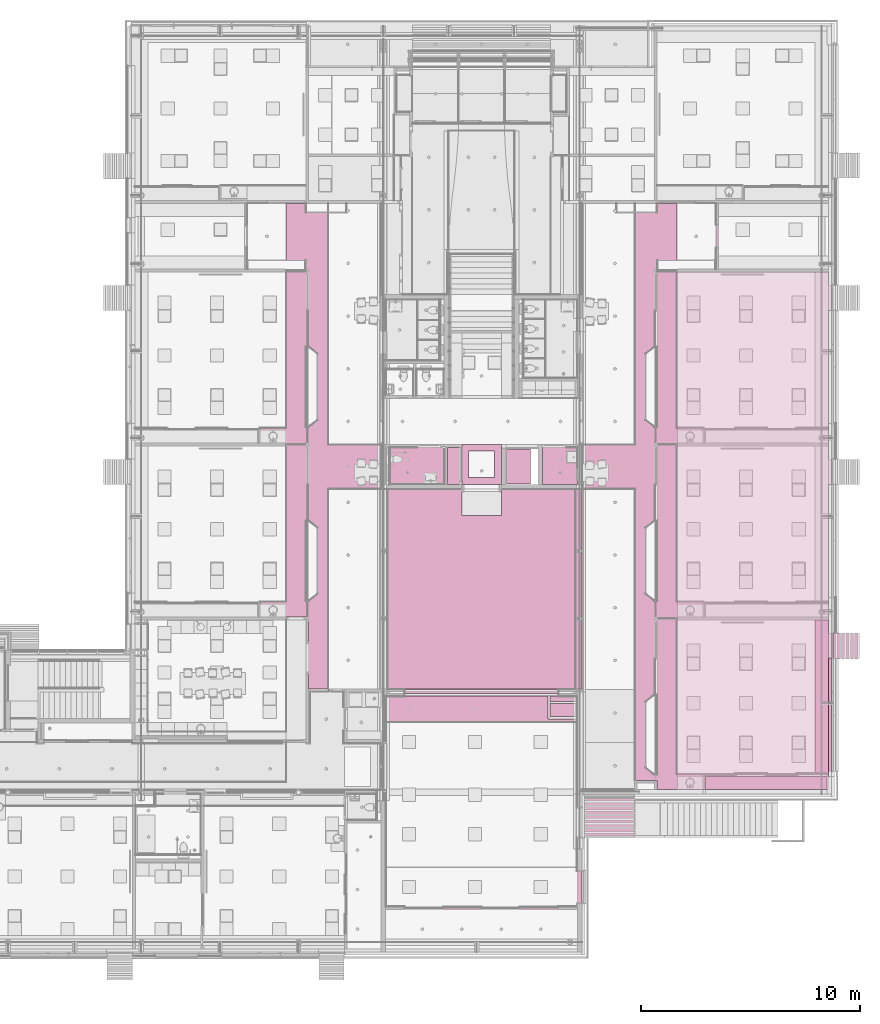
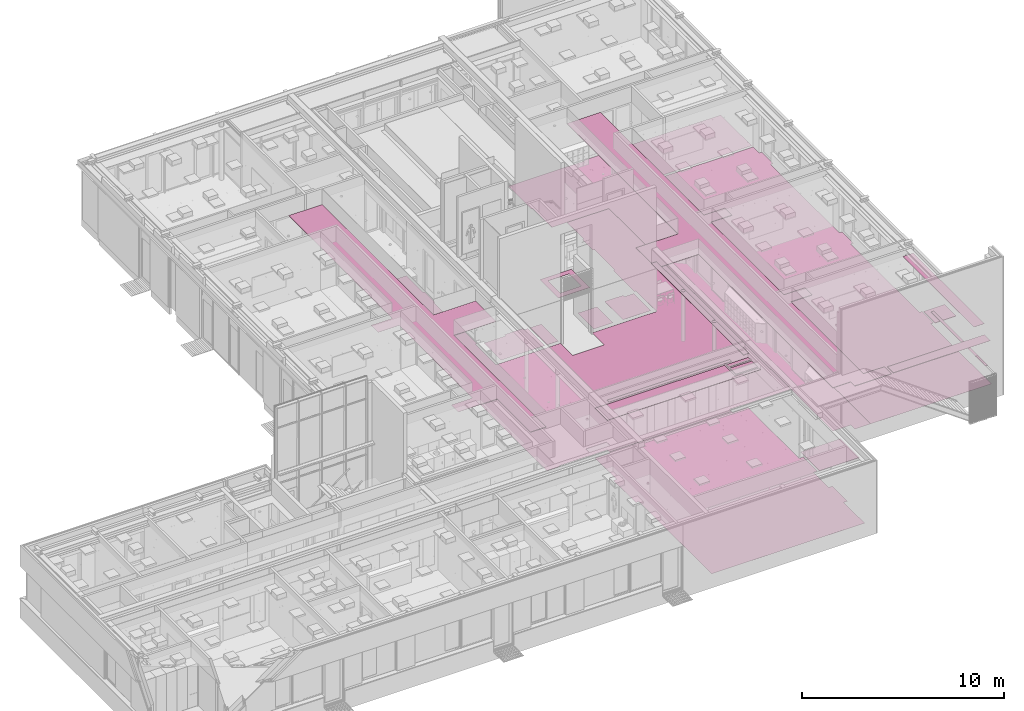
# One storey, part 324 of 347: 19 furnishings.
"""IFC2X3 building model written with IfcOpenShell, lengths in millimetres."""

import ifcopenshell
import ifcopenshell.guid

model = None  # the IFC model being written
_history = None  # IfcOwnerHistory: only IFC2X3 demands one
_inside = {}  # id of a spatial element -> (the spatial element, [elements in it])
_under = {}  # id of a project, library or spatial element -> (it, [spatial elements below it])
_declared = {}  # id of a project -> (the project, [libraries it declares])
_typed = {}  # id of a type object -> (the type object, [elements of that type])
_made_of = {}  # id of a material, layer set ... -> (it, [elements and type objects made of it])


def new_model(schema):
    """Start an empty IFC model of exactly this schema.

    Asked for "IFC4X3", IfcOpenShell would pick the latest addendum, in which some entities
    have other attributes; the version numbers below select the first issue.
    IFC2X3 requires an IfcOwnerHistory on every rooted entity: one is made here for all.
    """
    global model, _history
    if schema == "IFC4X3":
        model = ifcopenshell.file(schema_version=(4, 3, 0, 0))
    else:
        model = ifcopenshell.file(schema=schema)
    _inside.clear()
    _under.clear()
    _declared.clear()
    _typed.clear()
    _made_of.clear()
    _history = None
    if model.schema == "IFC2X3":
        org = make("IfcOrganization", Name="unknown")
        user = make(
            "IfcPersonAndOrganization",
            ThePerson=make("IfcPerson", FamilyName="unknown"),
            TheOrganization=org,
        )
        app = make(
            "IfcApplication",
            ApplicationDeveloper=org,
            Version="unknown",
            ApplicationFullName="unknown",
            ApplicationIdentifier="unknown",
        )
        _history = make(
            "IfcOwnerHistory",
            OwningUser=user,
            OwningApplication=app,
            ChangeAction="ADDED",
            CreationDate=0,
        )
    return model


def make(cls, **values):
    """One entity of the class cls with the attributes given. An attribute that is None is left unset."""
    return model.create_entity(
        cls, **{name: value for name, value in values.items() if value is not None}
    )


def entity(cls, *values):
    """Any entity or typed value of the class cls, its attributes in the order of the schema. None: left unset."""
    e = model.create_entity(cls)
    for i, value in enumerate(values):
        if value is not None:
            e[i] = value
    return e


def rooted(cls, **values):
    """An entity with a GlobalId (a new one), such as an element, a storey or a relation."""
    return make(cls, GlobalId=ifcopenshell.guid.new(), OwnerHistory=_history, **values)


def si_unit(unit_type, name, prefix=None):
    """IfcSIUnit, for example si_unit("LENGTHUNIT", "METRE", prefix="MILLI")."""
    return make("IfcSIUnit", UnitType=unit_type, Prefix=prefix, Name=name)


def converted_unit(unit_type, name, factor, base, dimensions=None, offset=None):
    """IfcConversionBasedUnit, such as the inch: factor (a typed value) times the base unit."""
    return make(
        "IfcConversionBasedUnit"
        if offset is None
        else "IfcConversionBasedUnitWithOffset",
        ConversionOffset=offset,
        Dimensions=None
        if dimensions is None
        else entity("IfcDimensionalExponents", *dimensions),
        UnitType=unit_type,
        Name=name,
        ConversionFactor=make(
            "IfcMeasureWithUnit", ValueComponent=factor, UnitComponent=base
        ),
    )


def derived_unit(unit_type, elements):
    """IfcDerivedUnit: a product of units, each with its exponent."""
    return make(
        "IfcDerivedUnit",
        Elements=[
            make("IfcDerivedUnitElement", Unit=unit, Exponent=power)
            for unit, power in elements
        ],
        UnitType=unit_type,
    )


def money_unit(currency):
    """IfcMonetaryUnit."""
    return make("IfcMonetaryUnit", Currency=currency)


def assignment(units):
    """IfcUnitAssignment: the units of a project."""
    return None if units is None else make("IfcUnitAssignment", Units=units)


def point(xyz):
    """IfcCartesianPoint."""
    return None if xyz is None else make("IfcCartesianPoint", Coordinates=xyz)


def direction(xyz):
    """IfcDirection."""
    return None if xyz is None else make("IfcDirection", DirectionRatios=xyz)


def frame(location, z_axis=None, x_axis=None):
    """IfcAxis2Placement3D, a coordinate frame: its origin and axes. An axis left out is left unset."""
    return make(
        "IfcAxis2Placement3D",
        Location=point(location),
        Axis=direction(z_axis),
        RefDirection=direction(x_axis),
    )


def origin_with_axes():
    """The frame at (0, 0, 0) with the z axis (0, 0, 1) and the x axis (1, 0, 0) written out."""
    return frame((0.0, 0.0, 0.0), z_axis=(0.0, 0.0, 1.0), x_axis=(1.0, 0.0, 0.0))


def place(relative_to, where):
    """IfcLocalPlacement: puts the frame where relative to a parent placement (None: the world)."""
    return make(
        "IfcLocalPlacement", PlacementRelTo=relative_to, RelativePlacement=where
    )


def context(
    kind, dimensions, precision=None, world=None, true_north=None, identifier=None
):
    """IfcGeometricRepresentationContext, for example the 3D "Model" context."""
    return make(
        "IfcGeometricRepresentationContext",
        ContextIdentifier=identifier,
        ContextType=kind,
        CoordinateSpaceDimension=dimensions,
        Precision=precision,
        WorldCoordinateSystem=world,
        TrueNorth=true_north,
    )


def subcontext(parent, identifier, kind, view, scale=None):
    """IfcGeometricRepresentationSubContext, for example "Body" below "Model"."""
    return make(
        "IfcGeometricRepresentationSubContext",
        ContextIdentifier=identifier,
        ContextType=kind,
        ParentContext=parent,
        TargetScale=scale,
        TargetView=view,
    )


def project(units=None, contexts=None):
    """IfcProject with its units and contexts."""
    return rooted(
        "IfcProject",
        Name="project",
        RepresentationContexts=contexts,
        UnitsInContext=assignment(units),
    )


def spatial(cls, under=None, at=None, **own):
    """A site, building, storey or space (cls), placed at a placement, below another one or the project."""
    s = rooted(cls, ObjectPlacement=at, **own)
    if under is not None:
        _under.setdefault(under.id(), (under, []))[1].append(s)
    return s


def faces_of(points, faces, orient=None, outer=None):
    """IfcFace entities. A face is a list of loops; a loop is a list of indices into points, from 0.

    orient and outer hold one flag for each loop. By default every Orientation is true, the
    first loop of a face is its IfcFaceOuterBound and the others are IfcFaceBound.
    """
    made = []
    for i, loops in enumerate(faces):
        bounds = []
        for j, loop in enumerate(loops):
            is_outer = j == 0 if outer is None else outer[i][j]
            bounds.append(
                make(
                    "IfcFaceOuterBound" if is_outer else "IfcFaceBound",
                    Bound=make("IfcPolyLoop", Polygon=[points[k] for k in loop]),
                    Orientation=True if orient is None else orient[i][j],
                )
            )
        made.append(make("IfcFace", Bounds=bounds))
    return made


def faceted_brep(points, faces, orient=None, outer=None, voids=None):
    """IfcFacetedBrep: a solid bounded by flat faces; with voids (closed shells), ...WithVoids."""
    shared = [point(p) for p in points]
    hull = make("IfcClosedShell", CfsFaces=faces_of(shared, faces, orient, outer))
    if voids is None:
        return make("IfcFacetedBrep", Outer=hull)
    return make(
        "IfcFacetedBrepWithVoids",
        Outer=hull,
        Voids=[
            make(cls, CfsFaces=faces_of(shared, fs, o, b)) for cls, fs, o, b in voids
        ],
    )


def shape(context_of_items, identifier, shape_type, items):
    """IfcShapeRepresentation: the items that make up one representation, for example the "Body"."""
    return make(
        "IfcShapeRepresentation",
        ContextOfItems=context_of_items,
        RepresentationIdentifier=identifier,
        RepresentationType=shape_type,
        Items=items,
    )


def material(Name=None, Category=None):
    """IfcMaterial."""
    return make("IfcMaterial", Name=Name, Category=Category)


def made_of(thing, what):
    """Note that an element or type object is made of a material, layer set ...; save() writes the relation."""
    if what is not None:
        _made_of.setdefault(what.id(), (what, []))[1].append(thing)
    return thing


def type_object(cls, material=None, **own):
    """A type object (cls), such as IfcWallType, which elements share."""
    return made_of(rooted(cls, **own), material)


def element(
    cls,
    number,
    at=None,
    inside=None,
    cuts=None,
    type_object=None,
    material=None,
    context=None,
    identifier="Body",
    shape_type=None,
    held_by="IfcProductDefinitionShape",
    body=None,
    shapes=None,
    **own,
):
    """One element of the class cls, such as IfcWall. Its Tag is "e" and its number.

    at: its placement. inside: the storey or other place that contains it. cuts: it is an
    opening in that element (IfcRelVoidsElement). A single representation is given by context,
    identifier, shape_type and body (its items); several are given by shapes. held_by: the class
    of the entity that holds the representations. save() writes the other relations.
    """
    e = rooted(cls, Tag="e%d" % number, ObjectPlacement=at, **own)
    if body is not None:
        shapes = [shape(context, identifier, shape_type, body)]
    if shapes is not None:
        e.Representation = make(held_by, Representations=shapes)
    if inside is not None:
        _inside.setdefault(inside.id(), (inside, []))[1].append(e)
    if cuts is not None:
        rooted(
            "IfcRelVoidsElement", RelatingBuildingElement=cuts, RelatedOpeningElement=e
        )
    if type_object is not None:
        _typed.setdefault(type_object.id(), (type_object, []))[1].append(e)
    return made_of(e, material)


def aggregate(whole, parts):
    """IfcRelAggregates: a whole, such as a stair, and the parts it consists of."""
    return rooted("IfcRelAggregates", RelatingObject=whole, RelatedObjects=parts)


def save(model, path):
    """Write the relations noted so far, then the file.

    IfcRelAggregates (storeys below a building ...), IfcRelContainedInSpatialStructure (elements
    in a storey), IfcRelDefinesByType, IfcRelAssociatesMaterial and IfcRelDeclares: one each for
    every whole, place, type object, material and project.
    """
    for whole, parts in _under.values():
        aggregate(whole, parts)
    for where, things in _inside.values():
        rooted(
            "IfcRelContainedInSpatialStructure",
            RelatedElements=things,
            RelatingStructure=where,
        )
    for kind, things in _typed.values():
        rooted("IfcRelDefinesByType", RelatedObjects=things, RelatingType=kind)
    for what, things in _made_of.values():
        rooted("IfcRelAssociatesMaterial", RelatedObjects=things, RelatingMaterial=what)
    for by, libraries in _declared.values():
        rooted("IfcRelDeclares", RelatingContext=by, RelatedDefinitions=libraries)
    model.write(path)


model = new_model("IFC2X3")

# Units and contexts
model_context = context("Model", 3, precision=0.01, world=origin_with_axes(), true_north=direction((0.0, 1.0)))
plan_context = context("Plan", 3, precision=0.01, world=origin_with_axes(), true_north=direction((0.0, 1.0)))
body_context = subcontext(model_context, "Body", "Model", "MODEL_VIEW")
ifc_project = project(units=[si_unit("LENGTHUNIT", "METRE", prefix="MILLI"), si_unit("AREAUNIT", "SQUARE_METRE"), si_unit("VOLUMEUNIT", "CUBIC_METRE"), converted_unit("PLANEANGLEUNIT", "DEGREE", entity("IfcPlaneAngleMeasure", 0.0174532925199), si_unit("PLANEANGLEUNIT", "RADIAN"), dimensions=[0, 0, 0, 0, 0, 0, 0]), money_unit("EUR"), converted_unit("TIMEUNIT", "Year", entity("IfcTimeMeasure", 31556926.0), si_unit("TIMEUNIT", "SECOND"), dimensions=[0, 0, 1, 0, 0, 0, 0]), si_unit("MASSUNIT", "GRAM", prefix="KILO"), si_unit("THERMODYNAMICTEMPERATUREUNIT", "DEGREE_CELSIUS"), si_unit("LUMINOUSINTENSITYUNIT", "LUMEN"), si_unit("ENERGYUNIT", "JOULE", prefix="MEGA"), derived_unit("THERMALCONDUCTANCEUNIT", [(si_unit("POWERUNIT", "WATT"), 1), (si_unit("LENGTHUNIT", "METRE"), -1), (si_unit("THERMODYNAMICTEMPERATUREUNIT", "KELVIN"), -1)]), derived_unit("SPECIFICHEATCAPACITYUNIT", [(si_unit("ENERGYUNIT", "JOULE"), 1), (si_unit("MASSUNIT", "GRAM", prefix="KILO"), -1), (si_unit("THERMODYNAMICTEMPERATUREUNIT", "KELVIN"), -1)]), derived_unit("MASSDENSITYUNIT", [(si_unit("MASSUNIT", "GRAM", prefix="KILO"), 1), (si_unit("VOLUMEUNIT", "CUBIC_METRE"), -1)])], contexts=[model_context, plan_context])

# Site, building, storey
site_placement = place(None, origin_with_axes())
site = spatial("IfcSite", under=ifc_project, at=site_placement, Name="Site", CompositionType="ELEMENT")
building_placement = place(site_placement, origin_with_axes())
building = spatial("IfcBuilding", under=site, at=building_placement, Name="Naam gebouw", CompositionType="ELEMENT")
storey_placement = place(building_placement, origin_with_axes())
storey = spatial("IfcBuildingStorey", under=building, at=storey_placement, Name="begane grond", CompositionType="ELEMENT", Elevation=0.0)

# Furnishings
ifc_material_1 = material(Name="ALG - LICHTE SCHEIDINGSWAND")
furniture_type_1 = type_object("IfcFurnitureType", Name="44 koof plaf 50", AssemblyPlace="NOTDEFINED")
furnishing_1_placement = place(storey_placement, frame((29975.0, 28037.5, 2600.0), z_axis=(0.0, 0.0, 1.0), x_axis=(1.0, 0.0, 0.0)))
element("IfcFurnishingElement", 1, at=furnishing_1_placement, inside=storey, type_object=furniture_type_1, material=ifc_material_1, Name="72_75 vaste inrichting", ObjectType="SHELF", context=body_context, shape_type="Brep", body=[
    faceted_brep([(0.0, 0.0, 12.0), (0.0, 0.0, 0.0), (1200.0, 0.0, 0.0), (1200.0, 0.0, 12.0), (0.0, 700.0, 12.0), (0.0, 700.0, 0.0), (1200.0, 700.0, 0.0), (1200.0, 10925.0, 0.0), (3120.0, 10925.0, 0.0), (3120.0, -62.5001387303, 0.0), (5520.00005485, -62.5001387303, 0.0), (5520.00005485, -2097.5, 0.0), (3120.0, -2097.5, 0.0), (3120.0, -11212.5, 0.0), (2225.0, -11212.5, 0.0), (2225.0, -7925.0, 0.0), (0.0, -7925.0, 0.0), (0.0, -7225.0, 0.0), (1200.0, -7225.0, 0.0), (1200.0, -7225.0, 12.0), (0.0, -7225.0, 12.0), (0.0, -7925.0, 12.0), (2225.0, -7925.0, 12.0), (2225.0, -11212.5, 12.0), (3120.0, -11212.5, 12.0), (3120.0, -2097.5, 12.0), (5520.00005485, -2097.5, 12.0), (5520.00005485, -62.5001387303, 12.0), (3120.0, -62.5001387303, 12.0), (3120.0, 10925.0, 12.0), (1200.0, 10925.0, 12.0), (1200.0, 700.0, 12.0)], [[[0, 1, 2, 3]], [[4, 5, 1, 0]], [[2, 1, 5, 6, 7, 8, 9, 10, 11, 12, 13, 14, 15, 16, 17, 18]], [[3, 2, 18, 19]], [[4, 0, 3, 19, 20, 21, 22, 23, 24, 25, 26, 27, 28, 29, 30, 31]], [[31, 6, 5, 4]], [[30, 7, 6, 31]], [[29, 8, 7, 30]], [[28, 9, 8, 29]], [[27, 10, 9, 28]], [[26, 11, 10, 27]], [[25, 12, 11, 26]], [[24, 13, 12, 25]], [[23, 14, 13, 24]], [[22, 15, 14, 23]], [[21, 16, 15, 22]], [[20, 17, 16, 21]], [[19, 18, 17, 20]]]),
])
furnishing_2_placement = place(storey_placement, frame((35705.0, 15315.0095364, 3000.0), z_axis=(0.0, 0.0, 1.0), x_axis=(1.0, 0.0, 0.0)))
element("IfcFurnishingElement", 2, at=furnishing_2_placement, inside=storey, type_object=furniture_type_1, material=ifc_material_1, Name="72_75 vaste inrichting", ObjectType="SHELF", context=body_context, shape_type="Brep", body=[
    faceted_brep([(8740.00124379, 0.0, 0.0), (8740.0, 159.990463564, 0.0), (8740.0, 159.990463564, 12.0), (8740.00124379, 0.0, 12.0), (7390.0, 1209.99045373, 0.0), (7390.0, 159.990463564, 0.0), (0.0, 0.0, 0.0), (0.0, 1209.99045373, 0.0), (7390.0, 159.990463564, 12.0), (7390.0, 1209.99045373, 12.0), (0.0, 1209.99045373, 12.0), (0.0, 0.0, 12.0)], [[[0, 1, 2, 3]], [[4, 5, 1, 0, 6, 7]], [[5, 8, 2, 1]], [[3, 2, 8, 9, 10, 11]], [[3, 11, 6, 0]], [[9, 8, 5, 4]], [[11, 10, 7, 6]], [[10, 9, 4, 7]]]),
    faceted_brep([(8740.0, 259.990463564, 0.0), (8740.0, 859.990463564, 0.0), (8740.0, 859.990463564, 12.0), (8740.0, 259.990463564, 12.0), (7490.0, 259.990463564, 0.0), (7490.0, 859.990463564, 0.0), (7490.0, 859.990463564, 12.0), (7490.0, 259.990463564, 12.0)], [[[0, 1, 2, 3]], [[4, 5, 1, 0]], [[5, 6, 2, 1]], [[3, 2, 6, 7]], [[4, 0, 3, 7]], [[7, 6, 5, 4]]]),
    faceted_brep([(7490.0, 1209.99045373, 12.0), (7490.0, 959.990463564, 12.0), (8740.0, 959.990463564, 12.0), (8740.00124379, 1209.99045373, 12.0), (7490.0, 1209.99045373, 0.0), (7490.0, 959.990463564, 0.0), (8740.0, 959.990463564, 0.0), (8740.00124379, 1209.99045373, 0.0)], [[[0, 1, 2, 3]], [[4, 5, 1, 0]], [[5, 6, 2, 1]], [[3, 2, 6, 7]], [[7, 4, 0, 3]], [[7, 6, 5, 4]]]),
])
furnishing_3_placement = place(storey_placement, frame((39175.0, 26150.0, 2600.0), z_axis=(0.0, 0.0, 1.0), x_axis=(1.0, 0.0, 0.0)))
element("IfcFurnishingElement", 3, at=furnishing_3_placement, inside=storey, type_object=furniture_type_1, material=ifc_material_1, Name="72_75 vaste inrichting", ObjectType="SHELF", context=body_context, shape_type="Brep", body=[
    faceted_brep([(0.0, 0.0, 12.0), (0.0, 0.0, 0.0), (1800.0, 0.0, 0.0), (1800.0, 0.0, 12.0), (0.0, 1825.0, 12.0), (0.0, 1825.0, 0.0), (1800.0, 1825.0, 0.0), (1500.0, 1525.0, 0.0), (300.0, 1525.0, 0.0), (300.0, 325.0, 0.0), (1500.0, 325.0, 0.0), (1800.0, 1825.0, 12.0), (300.0, 325.0, 12.0), (300.0, 1525.0, 12.0), (1500.0, 1525.0, 12.0), (1500.0, 325.0, 12.0)], [[[0, 1, 2, 3]], [[4, 5, 1, 0]], [[2, 1, 5, 6], [7, 8, 9, 10]], [[3, 2, 6, 11]], [[4, 0, 3, 11], [12, 13, 14, 15]], [[11, 6, 5, 4]], [[13, 8, 7, 14]], [[12, 9, 8, 13]], [[15, 10, 9, 12]], [[14, 7, 10, 15]]]),
])
furnishing_4_placement = place(storey_placement, frame((44655.0000183, 25940.0001323, 2600.0), z_axis=(0.0, 0.0, 1.0), x_axis=(1.0, 0.0, 0.0)))
element("IfcFurnishingElement", 4, at=furnishing_4_placement, inside=storey, type_object=furniture_type_1, material=ifc_material_1, Name="72_75 vaste inrichting", ObjectType="SHELF", context=body_context, shape_type="Brep", body=[
    faceted_brep([(0.0, 0.0, 12.0), (0.0, 0.0, 0.0), (2399.99998171, 0.0, 0.0), (2399.99998171, 0.0, 12.0), (0.0, 2034.99972901, 12.0), (0.0, 2034.99972901, 0.0), (2399.99998171, 2034.99972901, 0.0), (2399.99998171, 13022.4998677, 0.0), (4319.99998171, 13022.4998677, 0.0), (4319.99998171, 2797.49986774, 0.0), (5519.99998171, 2797.49986774, 0.0), (5519.99998171, 2097.49986774, 0.0), (4319.99998171, 2097.49986774, 0.0), (4319.99998171, -5127.50013226, 0.0), (5519.99998171, -5127.50013226, 0.0), (5519.99998171, -5827.50013226, 0.0), (4319.99998171, -5827.50013226, 0.0), (4319.9999624, -12980.0001323, 0.0), (5519.9999603, -12980.0000992, 0.0), (5519.99997962, -13680.0000572, 0.0), (3419.99998171, -13680.0000572, 0.0), (3419.99998171, -13280.0000572, 0.0), (2399.99998171, -13280.0000572, 0.0), (2399.99998171, -13280.0000572, 12.0), (3419.99998171, -13280.0000572, 12.0), (3419.99998171, -13680.0000572, 12.0), (5519.99997962, -13680.0000572, 12.0), (5519.9999603, -12980.0000992, 12.0), (4319.9999624, -12980.0001323, 12.0), (4319.99998171, -5827.50013226, 12.0), (5519.99998171, -5827.50013226, 12.0), (5519.99998171, -5127.50013226, 12.0), (4319.99998171, -5127.50013226, 12.0), (4319.99998171, 2097.49986774, 12.0), (5519.99998171, 2097.49986774, 12.0), (5519.99998171, 2797.49986774, 12.0), (4319.99998171, 2797.49986774, 12.0), (4319.99998171, 13022.4998677, 12.0), (2399.99998171, 13022.4998677, 12.0), (2399.99998171, 2034.99972901, 12.0)], [[[0, 1, 2, 3]], [[4, 5, 1, 0]], [[2, 1, 5, 6, 7, 8, 9, 10, 11, 12, 13, 14, 15, 16, 17, 18, 19, 20, 21, 22]], [[3, 2, 22, 23]], [[4, 0, 3, 23, 24, 25, 26, 27, 28, 29, 30, 31, 32, 33, 34, 35, 36, 37, 38, 39]], [[39, 6, 5, 4]], [[38, 7, 6, 39]], [[37, 8, 7, 38]], [[36, 9, 8, 37]], [[35, 10, 9, 36]], [[34, 11, 10, 35]], [[33, 12, 11, 34]], [[32, 13, 12, 33]], [[31, 14, 13, 32]], [[30, 15, 14, 31]], [[29, 16, 15, 30]], [[28, 17, 16, 29]], [[27, 18, 17, 28]], [[26, 19, 18, 27]], [[25, 20, 19, 26]], [[24, 21, 20, 25]], [[23, 22, 21, 24]]]),
])
furnishing_5_placement = place(storey_placement, frame((36575.0, 16637.5, 3000.0), z_axis=(0.0, 0.0, 1.0), x_axis=(1.0, 0.0, 0.0)))
element("IfcFurnishingElement", 5, at=furnishing_5_placement, inside=storey, type_object=furniture_type_1, material=ifc_material_1, Name="72_75 vaste inrichting", ObjectType="SHELF", context=body_context, shape_type="Brep", body=[
    faceted_brep([(0.0, 0.0, 12.0), (0.0, 0.0, 0.0), (7000.0, 0.0, 0.0), (7000.0, 0.0, 12.0), (0.0, 187.5, 12.0), (0.0, 187.5, 0.0), (7000.0, 187.5, 0.0), (7000.0, 187.5, 12.0)], [[[0, 1, 2, 3]], [[4, 5, 1, 0]], [[2, 1, 5, 6]], [[3, 2, 6, 7]], [[4, 0, 3, 7]], [[7, 6, 5, 4]]]),
])
furnishing_6_placement = place(storey_placement, frame((44355.0, 16809.9999672, 3000.0), z_axis=(0.0, 0.0, 1.0), x_axis=(1.0, 0.0, 0.0)))
element("IfcFurnishingElement", 6, at=furnishing_6_placement, inside=storey, type_object=furniture_type_1, material=ifc_material_1, Name="72_76 vaste inrichting", ObjectType="SHELF", context=body_context, shape_type="Brep", body=[
    faceted_brep([(300.0, 9130.00003278, 0.0), (300.00127657, 15.0008276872, 0.0), (90.0012765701, 15.0008276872, 0.0), (90.0012765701, 0.0, 0.0), (0.0, 0.0, 0.0), (0.0, 9130.00003278, 0.0), (267.463547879, 3162.5364849, 0.0), (284.873082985, 3185.22503278, 0.0), (295.81717427, 3211.64640639, 0.0), (299.55, 3240.00003278, 0.0), (295.81717427, 3268.35365917, 0.0), (284.873082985, 3294.77503278, 0.0), (267.463547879, 3317.46358066, 0.0), (244.775, 3334.87311577, 0.0), (218.353626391, 3345.81720705, 0.0), (190.0, 3349.55003278, 0.0), (161.646373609, 3345.81720705, 0.0), (135.225, 3334.87311577, 0.0), (112.536452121, 3317.46358066, 0.0), (95.1269170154, 3294.77503278, 0.0), (84.18282573, 3268.35365917, 0.0), (80.45, 3240.00003278, 0.0), (84.18282573, 3211.64640639, 0.0), (95.1269170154, 3185.22503278, 0.0), (112.536452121, 3162.5364849, 0.0), (135.225, 3145.1269498, 0.0), (161.646373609, 3134.18285851, 0.0), (190.0, 3130.45003278, 0.0), (218.353626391, 3134.18285851, 0.0), (244.775, 3145.1269498, 0.0), (267.463547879, 6237.5364849, 0.0), (284.873082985, 6260.22503278, 0.0), (295.81717427, 6286.64640639, 0.0), (299.55, 6315.00003278, 0.0), (295.81717427, 6343.35365917, 0.0), (284.873082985, 6369.77503278, 0.0), (267.463547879, 6392.46358066, 0.0), (244.775, 6409.87311577, 0.0), (218.353626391, 6420.81720705, 0.0), (190.0, 6424.55003278, 0.0), (161.646373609, 6420.81720705, 0.0), (135.225, 6409.87311577, 0.0), (112.536452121, 6392.46358066, 0.0), (95.1269170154, 6369.77503278, 0.0), (84.18282573, 6343.35365917, 0.0), (80.45, 6315.00003278, 0.0), (84.18282573, 6286.64640639, 0.0), (95.1269170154, 6260.22503278, 0.0), (112.536452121, 6237.5364849, 0.0), (135.225, 6220.1269498, 0.0), (161.646373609, 6209.18285851, 0.0), (190.0, 6205.45003278, 0.0), (218.353626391, 6209.18285851, 0.0), (244.775, 6220.1269498, 0.0), (300.0, 9130.00003278, 12.0), (300.00127657, 15.0008309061, 12.0), (90.0012765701, 15.0008309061, 12.0), (90.0012765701, 0.0, 12.0), (0.0, 0.0, 12.0), (0.0, 9130.00003278, 12.0), (267.463547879, 3162.5364849, 12.0), (284.873082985, 3185.22503278, 12.0), (295.81717427, 3211.64640639, 12.0), (299.55, 3240.00003278, 12.0), (295.81717427, 3268.35365917, 12.0), (284.873082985, 3294.77503278, 12.0), (267.463547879, 3317.46358066, 12.0), (244.775, 3334.87311577, 12.0), (218.353626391, 3345.81720705, 12.0), (190.0, 3349.55003278, 12.0), (161.646373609, 3345.81720705, 12.0), (135.225, 3334.87311577, 12.0), (112.536452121, 3317.46358066, 12.0), (95.1269170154, 3294.77503278, 12.0), (84.18282573, 3268.35365917, 12.0), (80.45, 3240.00003278, 12.0), (84.18282573, 3211.64640639, 12.0), (95.1269170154, 3185.22503278, 12.0), (112.536452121, 3162.5364849, 12.0), (135.225, 3145.1269498, 12.0), (161.646373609, 3134.18285851, 12.0), (190.0, 3130.45003278, 12.0), (218.353626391, 3134.18285851, 12.0), (244.775, 3145.1269498, 12.0), (267.463547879, 6237.5364849, 12.0), (284.873082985, 6260.22503278, 12.0), (295.81717427, 6286.64640639, 12.0), (299.55, 6315.00003278, 12.0), (295.81717427, 6343.35365917, 12.0), (284.873082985, 6369.77503278, 12.0), (267.463547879, 6392.46358066, 12.0), (244.775, 6409.87311577, 12.0), (218.353626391, 6420.81720705, 12.0), (190.0, 6424.55003278, 12.0), (161.646373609, 6420.81720705, 12.0), (135.225, 6409.87311577, 12.0), (112.536452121, 6392.46358066, 12.0), (95.1269170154, 6369.77503278, 12.0), (84.18282573, 6343.35365917, 12.0), (80.45, 6315.00003278, 12.0), (84.18282573, 6286.64640639, 12.0), (95.1269170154, 6260.22503278, 12.0), (112.536452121, 6237.5364849, 12.0), (135.225, 6220.1269498, 12.0), (161.646373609, 6209.18285851, 12.0), (190.0, 6205.45003278, 12.0), (218.353626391, 6209.18285851, 12.0), (244.775, 6220.1269498, 12.0)], [[[0, 1, 2, 3, 4, 5], [6, 7, 8, 9, 10, 11, 12, 13, 14, 15, 16, 17, 18, 19, 20, 21, 22, 23, 24, 25, 26, 27, 28, 29], [30, 31, 32, 33, 34, 35, 36, 37, 38, 39, 40, 41, 42, 43, 44, 45, 46, 47, 48, 49, 50, 51, 52, 53]], [[0, 54, 55, 1]], [[56, 2, 1, 55]], [[3, 2, 56, 57]], [[58, 4, 3, 57]], [[4, 58, 59, 5]], [[5, 59, 54, 0]], [[6, 60, 61, 7]], [[7, 61, 62, 8]], [[8, 62, 63, 9]], [[9, 63, 64, 10]], [[10, 64, 65, 11]], [[11, 65, 66, 12]], [[12, 66, 67, 13]], [[13, 67, 68, 14]], [[14, 68, 69, 15]], [[15, 69, 70, 16]], [[16, 70, 71, 17]], [[17, 71, 72, 18]], [[18, 72, 73, 19]], [[19, 73, 74, 20]], [[20, 74, 75, 21]], [[21, 75, 76, 22]], [[22, 76, 77, 23]], [[23, 77, 78, 24]], [[24, 78, 79, 25]], [[25, 79, 80, 26]], [[26, 80, 81, 27]], [[27, 81, 82, 28]], [[28, 82, 83, 29]], [[29, 83, 60, 6]], [[30, 84, 85, 31]], [[31, 85, 86, 32]], [[32, 86, 87, 33]], [[33, 87, 88, 34]], [[34, 88, 89, 35]], [[35, 89, 90, 36]], [[36, 90, 91, 37]], [[37, 91, 92, 38]], [[38, 92, 93, 39]], [[39, 93, 94, 40]], [[40, 94, 95, 41]], [[41, 95, 96, 42]], [[42, 96, 97, 43]], [[43, 97, 98, 44]], [[44, 98, 99, 45]], [[45, 99, 100, 46]], [[46, 100, 101, 47]], [[47, 101, 102, 48]], [[48, 102, 103, 49]], [[49, 103, 104, 50]], [[50, 104, 105, 51]], [[51, 105, 106, 52]], [[52, 106, 107, 53]], [[53, 107, 84, 30]], [[59, 58, 57, 56, 55, 54], [66, 65, 64, 63, 62, 61, 60, 83, 82, 81, 80, 79, 78, 77, 76, 75, 74, 73, 72, 71, 70, 69, 68, 67], [90, 89, 88, 87, 86, 85, 84, 107, 106, 105, 104, 103, 102, 101, 100, 99, 98, 97, 96, 95, 94, 93, 92, 91]]]),
])
furnishing_7_placement = place(storey_placement, frame((55875.0, 12960.0, 3200.0), z_axis=(0.0, 0.0, 1.0), x_axis=(1.0, 0.0, 0.0)))
element("IfcFurnishingElement", 7, at=furnishing_7_placement, inside=storey, type_object=furniture_type_1, material=ifc_material_1, Name="72_75 vaste inrichting", ObjectType="SHELF", context=body_context, shape_type="Brep", body=[
    faceted_brep([(0.0, 0.0, 12.0), (0.0, 0.0, 0.0), (0.0, 7027.5, 0.0), (0.0, 7027.5, 12.0), (-600.0, 0.0, 12.0), (-600.0, 0.0, 0.0), (-600.0, 7027.5, 0.0), (-600.0, 7027.5, 12.0)], [[[0, 1, 2, 3]], [[4, 5, 1, 0]], [[2, 1, 5, 6]], [[3, 2, 6, 7]], [[4, 0, 3, 7]], [[7, 6, 5, 4]]]),
])
furnishing_8_placement = place(storey_placement, frame((50274.9999807, 12260.0000751, 2622.0), z_axis=(0.0, 0.0, 1.0), x_axis=(1.0, 0.0, 0.0)))
element("IfcFurnishingElement", 8, at=furnishing_8_placement, inside=storey, type_object=furniture_type_1, material=ifc_material_1, Name="72_81 vaste inrichting", ObjectType="SHELF", context=body_context, shape_type="Brep", body=[
    faceted_brep([(0.0, 0.0, 12.0), (0.0, 0.0, 0.0), (5539.9999779, 0.0, 0.0), (5539.9999779, 0.0, 12.0), (0.0, 599.999958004, 12.0), (0.0, 599.999958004, 0.0), (5539.9999779, 599.999958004, 0.0), (5539.9999779, 599.999958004, 12.0)], [[[0, 1, 2, 3]], [[4, 5, 1, 0]], [[2, 1, 5, 6]], [[3, 2, 6, 7]], [[4, 0, 3, 7]], [[7, 6, 5, 4]]]),
])
ifc_material_2 = material(Name="43 fresco Barbados 3858")
furniture_type_2 = type_object("IfcFurnitureType", Name="43 fresco Barbados 3858 2", AssemblyPlace="NOTDEFINED")
furnishing_9_placement = place(storey_placement, frame((33095.0, 34799.9997911, 0.0), z_axis=(0.0, 0.0, 1.0), x_axis=(1.0, 0.0, 0.0)))
element("IfcFurnishingElement", 9, at=furnishing_9_placement, inside=storey, type_object=furniture_type_2, material=ifc_material_2, Name="72_43 marmoleum", ObjectType="SHELF", context=body_context, shape_type="Brep", body=[
    faceted_brep([(0.0, 0.0, 2.0), (0.0, 0.0, 0.0), (0.0, -18046.9998655, 0.0), (0.0, -18046.9998655, 2.0), (2399.99931762, 0.000270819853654, 2.0), (2399.99931762, 0.000270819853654, 0.0), (2400.00013008, -1645.99974166, 0.0), (2480.00004414, -1645.99974166, 0.0), (2480.00004414, -2709.99976322, 0.0), (2400.00013008, -2709.99976322, 0.0), (2399.99985926, -4724.99995142, 0.0), (2492.0, -4724.99995142, 0.0), (2492.0, -6824.99992982, 0.0), (2399.99985926, -6824.99992982, 0.0), (2400.00013008, -8859.99989343, 0.0), (6079.99996844, -8859.99962261, 0.0), (6079.99996844, -10059.9997911, 0.0), (7880.00006599, -10059.9997911, 0.0), (7880.00006599, -8859.99962261, 0.0), (11559.9999044, -8859.99989343, 0.0), (11560.0001752, -6824.99992982, 0.0), (11473.0, -6824.99992982, 0.0), (11473.0, -4724.99995142, 0.0), (11560.0001752, -4724.99995142, 0.0), (11559.9999044, -2709.99976322, 0.0), (11479.9999903, -2709.99976322, 0.0), (11479.9999903, -1645.99974166, 0.0), (11559.9999044, -1645.99974166, 0.0), (11560.0007168, 0.000270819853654, 0.0), (13960.0000344, 0.0, 0.0), (13960.0000344, -17989.9998692, 0.0), (11258.9998858, -17989.9998692, 0.0), (11258.9998858, -17974.9996991, 0.0), (10480.0001166, -17974.9996991, 0.0), (10480.0001166, -18174.3951498, 0.0), (3479.99991779, -18174.3951498, 0.0), (3479.99991779, -17974.9996991, 0.0), (2700.00001093, -17974.9996991, 0.0), (2700.00001093, -17989.9998692, 0.0), (2400.00013008, -17989.9998692, 0.0), (2400.00013008, -17974.9996991, 0.0), (730.000062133, -17974.9996991, 0.0), (730.000062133, -18046.9998655, 0.0), (730.000062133, -18046.9998655, 2.0), (730.000062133, -17974.9996991, 2.0), (2400.00013008, -17974.9996991, 2.0), (2400.00013008, -17989.9998692, 2.0), (2700.00001093, -17989.9998692, 2.0), (2700.00001093, -17974.9996991, 2.0), (3479.99991779, -17974.9996991, 2.0), (3479.99991779, -18174.3951498, 2.0), (10480.0001166, -18174.3951498, 2.0), (10480.0001166, -17974.9996991, 2.0), (11258.9998858, -17974.9996991, 2.0), (11258.9998858, -17989.9998692, 2.0), (13960.0000344, -17989.9998692, 2.0), (13960.0000344, 0.0, 2.0), (11560.0007168, 0.000270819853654, 2.0), (11559.9999044, -1645.99974166, 2.0), (11479.9999903, -1645.99974166, 2.0), (11479.9999903, -2709.99976322, 2.0), (11559.9999044, -2709.99976322, 2.0), (11560.0001752, -4724.99995142, 2.0), (11473.0, -4724.99995142, 2.0), (11473.0, -6824.99992982, 2.0), (11560.0001752, -6824.99992982, 2.0), (11559.9999044, -8859.99989343, 2.0), (7880.00006599, -8859.99962261, 2.0), (7880.00006599, -10059.9997911, 2.0), (6079.99996844, -10059.9997911, 2.0), (6079.99996844, -8859.99962261, 2.0), (2400.00013008, -8859.99989343, 2.0), (2399.99985926, -6824.99992982, 2.0), (2492.0, -6824.99992982, 2.0), (2492.0, -4724.99995142, 2.0), (2399.99985926, -4724.99995142, 2.0), (2400.00013008, -2709.99976322, 2.0), (2480.00004414, -2709.99976322, 2.0), (2480.00004414, -1645.99974166, 2.0), (2400.00013008, -1645.99974166, 2.0)], [[[0, 1, 2, 3]], [[4, 5, 1, 0]], [[2, 1, 5, 6, 7, 8, 9, 10, 11, 12, 13, 14, 15, 16, 17, 18, 19, 20, 21, 22, 23, 24, 25, 26, 27, 28, 29, 30, 31, 32, 33, 34, 35, 36, 37, 38, 39, 40, 41, 42]], [[3, 2, 42, 43]], [[4, 0, 3, 43, 44, 45, 46, 47, 48, 49, 50, 51, 52, 53, 54, 55, 56, 57, 58, 59, 60, 61, 62, 63, 64, 65, 66, 67, 68, 69, 70, 71, 72, 73, 74, 75, 76, 77, 78, 79]], [[79, 6, 5, 4]], [[78, 7, 6, 79]], [[77, 8, 7, 78]], [[76, 9, 8, 77]], [[75, 10, 9, 76]], [[74, 11, 10, 75]], [[73, 12, 11, 74]], [[72, 13, 12, 73]], [[71, 14, 13, 72]], [[70, 15, 14, 71]], [[69, 16, 15, 70]], [[68, 17, 16, 69]], [[67, 18, 17, 68]], [[66, 19, 18, 67]], [[65, 20, 19, 66]], [[64, 21, 20, 65]], [[63, 22, 21, 64]], [[62, 23, 22, 63]], [[61, 24, 23, 62]], [[60, 25, 24, 61]], [[59, 26, 25, 60]], [[58, 27, 26, 59]], [[57, 28, 27, 58]], [[56, 29, 28, 57]], [[55, 30, 29, 56]], [[54, 31, 30, 55]], [[53, 32, 31, 54]], [[52, 33, 32, 53]], [[51, 34, 33, 52]], [[50, 35, 34, 51]], [[49, 36, 35, 50]], [[48, 37, 36, 49]], [[47, 38, 37, 48]], [[46, 39, 38, 47]], [[45, 40, 39, 46]], [[44, 41, 40, 45]], [[43, 42, 41, 44]]]),
])
furnishing_10_placement = place(storey_placement, frame((55875.0001348, 35837.4999805, 0.0), z_axis=(0.0, 0.0, 1.0), x_axis=(1.0, 0.0, 0.0)))
element("IfcFurnishingElement", 10, at=furnishing_10_placement, inside=storey, type_object=furniture_type_2, material=ifc_material_2, Name="72_43 marmoleum", ObjectType="SHELF", context=body_context, shape_type="Brep", body=[
    faceted_brep([(0.0, 0.0, 2.0), (0.0, 0.0, 0.0), (-6900.00015416, 0.0, 0.0), (-6900.00015416, 0.0, 2.0), (0.0, -599.9999909, 2.0), (0.0, -599.9999909, 0.0), (149.99991031, -599.9999909, 0.0), (149.99991031, -1749.99998055, 0.0), (0.0, -1749.99998055, 0.0), (0.0, -8524.99998055, 0.0), (149.999865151, -8524.99998055, 0.0), (149.999865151, -9674.99998055, 0.0), (-7.83022002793e-05, -9674.99998055, 0.0), (-0.000120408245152, -16449.9999805, 0.0), (149.999865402, -16449.9999805, 0.0), (149.999865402, -17599.9999803, 0.0), (-0.000120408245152, -17599.9999803, 0.0), (-7.83022002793e-05, -23577.4999333, 0.0), (-6900.00015416, -23577.4999333, 0.0), (-6900.00015416, -23577.4999333, 2.0), (-7.83022002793e-05, -23577.4999333, 2.0), (-0.000120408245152, -17599.9999803, 2.0), (149.999865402, -17599.9999803, 2.0), (149.999865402, -16449.9999805, 2.0), (-0.000120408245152, -16449.9999805, 2.0), (-7.83022002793e-05, -9674.99998055, 2.0), (149.999865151, -9674.99998055, 2.0), (149.999865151, -8524.99998055, 2.0), (0.0, -8524.99998055, 2.0), (0.0, -1749.99998055, 2.0), (149.99991031, -1749.99998055, 2.0), (149.99991031, -599.9999909, 2.0)], [[[0, 1, 2, 3]], [[4, 5, 1, 0]], [[2, 1, 5, 6, 7, 8, 9, 10, 11, 12, 13, 14, 15, 16, 17, 18]], [[3, 2, 18, 19]], [[4, 0, 3, 19, 20, 21, 22, 23, 24, 25, 26, 27, 28, 29, 30, 31]], [[31, 6, 5, 4]], [[30, 7, 6, 31]], [[29, 8, 7, 30]], [[28, 9, 8, 29]], [[27, 10, 9, 28]], [[26, 11, 10, 27]], [[25, 12, 11, 26]], [[24, 13, 12, 25]], [[23, 14, 13, 24]], [[22, 15, 14, 23]], [[21, 16, 15, 22]], [[20, 17, 16, 21]], [[19, 18, 17, 20]]]),
])
furnishing_11_placement = place(storey_placement, frame((35704.9999217, 14399.9999216, 0.0), z_axis=(0.0, 0.0, 1.0), x_axis=(1.0, 0.0, 0.0)))
element("IfcFurnishingElement", 11, at=furnishing_11_placement, inside=storey, type_object=furniture_type_2, material=ifc_material_2, Name="72_43 marmoleum", ObjectType="SHELF", context=body_context, shape_type="Brep", body=[
    faceted_brep([(0.0, 0.0, 2.0), (0.0, 0.0, 0.0), (-176.999921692, 0.0, 0.0), (-176.999921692, 0.0, 2.0), (0.0, 2125.00001315, 2.0), (0.0, 2125.00001315, 0.0), (870.000040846, 2125.00001315, 0.0), (870.000040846, 2225.60478184, 0.0), (7870.00002302, 2225.60478184, 0.0), (7870.00002302, 2125.00001315, 0.0), (8740.00006387, 2125.00001315, 0.0), (8740.00075681, -2949.99996527, 0.0), (8950.0009399, -2949.99996527, 0.0), (8950.0009399, -4349.99985776, 0.0), (8740.00075681, -4349.99985776, 0.0), (8740.00041034, -5834.99048616, 0.0), (8950.00059343, -5834.99048616, 0.0), (8950.00059343, -7334.99038335, 0.0), (8740.00041034, -7334.99038335, 0.0), (8740.00006387, -9399.99992162, 0.0), (0.0, -9399.99992162, 0.0), (0.0, -2212.49988733, 0.0), (-176.999921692, -2212.49988733, 0.0), (-176.999921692, -2212.49988733, 2.0), (0.0, -2212.49988733, 2.0), (0.0, -9399.99992162, 2.0), (8740.00006387, -9399.99992162, 2.0), (8740.00041034, -7334.99038335, 2.0), (8950.00059343, -7334.99038335, 2.0), (8950.00059343, -5834.99048616, 2.0), (8740.00041034, -5834.99048616, 2.0), (8740.00075681, -4349.99985776, 2.0), (8950.0009399, -4349.99985776, 2.0), (8950.0009399, -2949.99996527, 2.0), (8740.00075681, -2949.99996527, 2.0), (8740.00006387, 2125.00001315, 2.0), (7870.00002302, 2125.00001315, 2.0), (7870.00002302, 2225.60478184, 2.0), (870.000040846, 2225.60478184, 2.0), (870.000040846, 2125.00001315, 2.0)], [[[0, 1, 2, 3]], [[4, 5, 1, 0]], [[2, 1, 5, 6, 7, 8, 9, 10, 11, 12, 13, 14, 15, 16, 17, 18, 19, 20, 21, 22]], [[3, 2, 22, 23]], [[4, 0, 3, 23, 24, 25, 26, 27, 28, 29, 30, 31, 32, 33, 34, 35, 36, 37, 38, 39]], [[39, 6, 5, 4]], [[38, 7, 6, 39]], [[37, 8, 7, 38]], [[36, 9, 8, 37]], [[35, 10, 9, 36]], [[34, 11, 10, 35]], [[33, 12, 11, 34]], [[32, 13, 12, 33]], [[31, 14, 13, 32]], [[30, 15, 14, 31]], [[29, 16, 15, 30]], [[28, 17, 16, 29]], [[27, 18, 17, 28]], [[26, 19, 18, 27]], [[25, 20, 19, 26]], [[24, 21, 20, 25]], [[23, 22, 21, 24]]]),
])
ifc_material_3 = material(Name="42 vensterbank")
furniture_type_3 = type_object("IfcFurnitureType", Name="42 vensterbank 20", AssemblyPlace="NOTDEFINED")
furnishing_12_placement = place(storey_placement, frame((55875.0000144, 12860.0, 720.0), z_axis=(0.0, 0.0, 1.0), x_axis=(1.0, 0.0, 0.0)))
element("IfcFurnishingElement", 12, at=furnishing_12_placement, inside=storey, type_object=furniture_type_3, material=ifc_material_3, Name="72_73 vaste inrichting", ObjectType="SHELF", context=body_context, shape_type="Brep", body=[
    faceted_brep([(0.0, 0.0, 0.0), (0.0, 0.0, -20.0), (149.99997201, 0.0, -20.0), (149.99997201, 0.0, 0.0), (0.0, 5377.50000029, 0.0), (0.0, 5377.50000029, -20.0), (149.99997201, 5377.50000029, -20.0), (149.99997201, 5377.50000029, 0.0)], [[[0, 1, 2, 3]], [[4, 5, 1, 0]], [[2, 1, 5, 6]], [[3, 2, 6, 7]], [[4, 0, 3, 7]], [[7, 6, 5, 4]]]),
])
ifc_material_4 = material(Name="43 fresco Arabian pearl 3861")
furniture_type_4 = type_object("IfcFurnitureType", Name="43 fresco Arabian pearl 3861 2", AssemblyPlace="NOTDEFINED")
furnishing_13_placement = place(storey_placement, frame((41208.0, 26172.9999995, 0.0), z_axis=(0.0, 0.0, 1.0), x_axis=(1.0, 0.0, 0.0)))
element("IfcFurnishingElement", 13, at=furnishing_13_placement, inside=storey, type_object=furniture_type_4, material=ifc_material_4, Name="72_43 marmoleum", ObjectType="SHELF", context=body_context, shape_type="Brep", body=[
    faceted_brep([(0.0, 0.0, 2.0), (0.0, 0.0, 0.0), (1100.0, 0.0, 0.0), (1100.0, 0.0, 2.0), (0.0, 1596.99996814, 2.0), (0.0, 1596.99996814, 0.0), (1100.0, 1596.99996814, 0.0), (1100.0, 1596.99996814, 2.0)], [[[0, 1, 2, 3]], [[4, 5, 1, 0]], [[2, 1, 5, 6]], [[3, 2, 6, 7]], [[4, 0, 3, 7]], [[7, 6, 5, 4]]]),
])
ifc_material_5 = material(Name="Metaal - Aluminium")
furniture_type_5 = type_object("IfcFurnitureType", Name="Metaal - Aluminium 25", AssemblyPlace="NOTDEFINED")
furnishing_14_placement = place(storey_placement, frame((44777.0007534, 10050.0, -15.0), z_axis=(0.0, 0.0, 1.0), x_axis=(1.0, 0.0, 0.0)))
element("IfcFurnishingElement", 14, at=furnishing_14_placement, inside=storey, type_object=furniture_type_5, material=ifc_material_5, Name="72_43 schoonloop zone 1", ObjectType="SHELF", context=body_context, shape_type="Brep", body=[
    faceted_brep([(0.0, 0.0, 0.0), (0.0, 0.0, -25.0), (2277.99924659, 0.0, -25.0), (2277.99924659, 0.0, 0.0), (0.0, 1878.00003368, 0.0), (0.0, 1878.00003368, -25.0), (2277.99924659, 1878.00003368, -25.0), (2277.99924659, 1878.00003368, 0.0)], [[[0, 1, 2, 3]], [[4, 5, 1, 0]], [[2, 1, 5, 6]], [[3, 2, 6, 7]], [[4, 0, 3, 7]], [[7, 6, 5, 4]]]),
])
furnishing_15_placement = place(storey_placement, frame((56097.0000252, 19374.5, -15.0), z_axis=(0.0, 0.0, 1.0), x_axis=(1.0, 0.0, 0.0)))
element("IfcFurnishingElement", 15, at=furnishing_15_placement, inside=storey, type_object=furniture_type_5, material=ifc_material_5, Name="72_43 schoonloop zone 1", ObjectType="SHELF", context=body_context, shape_type="Brep", body=[
    faceted_brep([(0.0, 0.0, 0.0), (0.0, 0.0, -25.0), (0.0, -1150.0, -25.0), (0.0, -1150.0, 0.0), (1199.99997171, 0.0, 0.0), (1199.99997171, 0.0, -25.0), (1199.99997171, -1150.0, -25.0), (1199.99997171, -1150.0, 0.0)], [[[0, 1, 2, 3]], [[4, 5, 1, 0]], [[2, 1, 5, 6]], [[3, 2, 6, 7]], [[4, 0, 3, 7]], [[7, 6, 5, 4]]]),
])
ifc_material_6 = material(Name="48 vloeivloer Bolidt")
furniture_type_6 = type_object("IfcFurnitureType", Name="48 vloeivloer Bolidt 2", AssemblyPlace="NOTDEFINED")
furnishing_16_placement = place(storey_placement, frame((38530.0, 26150.0, 0.0), z_axis=(0.0, 0.0, 1.0), x_axis=(1.0, 0.0, 0.0)))
element("IfcFurnishingElement", 16, at=furnishing_16_placement, inside=storey, type_object=furniture_type_6, material=ifc_material_6, Name="72_43 vloeivloer", ObjectType="SHELF", context=body_context, shape_type="Brep", body=[
    faceted_brep([(0.0, 0.0, 2.0), (0.0, 0.0, 0.0), (645.0, 0.0, 0.0), (645.0, 0.0, 2.0), (0.0, 1700.0, 2.0), (0.0, 1700.0, 0.0), (645.0, 1700.0, 0.0), (645.0, 1700.0, 2.0)], [[[0, 1, 2, 3]], [[4, 5, 1, 0]], [[2, 1, 5, 6]], [[3, 2, 6, 7]], [[4, 0, 3, 7]], [[7, 6, 5, 4]]]),
])
furnishing_17_placement = place(storey_placement, frame((42857.0, 26150.0, 0.0), z_axis=(0.0, 0.0, 1.0), x_axis=(1.0, 0.0, 0.0)))
element("IfcFurnishingElement", 17, at=furnishing_17_placement, inside=storey, type_object=furniture_type_6, material=ifc_material_6, Name="72_43 vloeivloer", ObjectType="SHELF", context=body_context, shape_type="Brep", body=[
    faceted_brep([(0.0, 0.0, 2.0), (0.0, 0.0, 0.0), (1588.00000037, 0.0, 0.0), (1588.00000037, 0.0, 2.0), (0.0, 1700.0000041, 2.0), (0.0, 1700.0000041, 0.0), (5.00000745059, 1700.0000041, 0.0), (5.00000745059, 1825.0, 0.0), (1068.99998845, 1825.0, 0.0), (1068.99998845, 1700.0000041, 0.0), (1588.00000037, 1700.0000041, 0.0), (1588.00000037, 1700.0000041, 2.0), (1068.99998845, 1700.0000041, 2.0), (1068.99998845, 1825.0, 2.0), (5.00000745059, 1825.0, 2.0), (5.00000745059, 1700.0000041, 2.0)], [[[0, 1, 2, 3]], [[4, 5, 1, 0]], [[2, 1, 5, 6, 7, 8, 9, 10]], [[3, 2, 10, 11]], [[4, 0, 3, 11, 12, 13, 14, 15]], [[15, 6, 5, 4]], [[14, 7, 6, 15]], [[13, 8, 7, 14]], [[12, 9, 8, 13]], [[11, 10, 9, 12]]]),
])
furnishing_18_placement = place(storey_placement, frame((35905.0, 26150.0, 0.0), z_axis=(0.0, 0.0, 1.0), x_axis=(1.0, 0.0, 0.0)))
element("IfcFurnishingElement", 18, at=furnishing_18_placement, inside=storey, type_object=furniture_type_6, material=ifc_material_6, Name="72_43 vloeivloer", ObjectType="SHELF", context=body_context, shape_type="Brep", body=[
    faceted_brep([(0.0, 0.0, 2.0), (0.0, 0.0, 0.0), (2500.0, 0.0, 0.0), (2500.0, 0.0, 2.0), (0.0, 1700.0, 2.0), (0.0, 1700.0, 0.0), (1236.00001043, 1700.0, 0.0), (1236.00001043, 1825.0, 0.0), (2300.0, 1825.0, 0.0), (2300.0, 1700.0, 0.0), (2500.0, 1700.0, 0.0), (2500.0, 1700.0, 2.0), (2300.0, 1700.0, 2.0), (2300.0, 1825.0, 2.0), (1236.00001043, 1825.0, 2.0), (1236.00001043, 1700.0, 2.0)], [[[0, 1, 2, 3]], [[4, 5, 1, 0]], [[2, 1, 5, 6, 7, 8, 9, 10]], [[3, 2, 10, 11]], [[4, 0, 3, 11, 12, 13, 14, 15]], [[15, 6, 5, 4]], [[14, 7, 6, 15]], [[13, 8, 7, 14]], [[12, 9, 8, 13]], [[11, 10, 9, 12]]]),
])
ifc_material_7 = material(Name="43 Fresco Moonstone 3883")
furniture_type_7 = type_object("IfcFurnitureType", Name="43 Fresco Moonstone 3883 2", AssemblyPlace="NOTDEFINED")
furnishing_19_placement = place(storey_placement, frame((43718.0, 36659.5, 0.0), z_axis=(0.0, 0.0, 1.0), x_axis=(1.0, 0.0, 0.0)))
element("IfcFurnishingElement", 19, at=furnishing_19_placement, inside=storey, type_object=furniture_type_7, material=ifc_material_7, Name="72_43 marmoleum", ObjectType="SHELF", context=body_context, shape_type="Brep", body=[
    faceted_brep([(0.0, 0.0, 2.0), (0.0, 0.0, 0.0), (82.0, 0.0, 0.0), (82.0, 0.0, 2.0), (0.0, 2303.0, 2.0), (0.0, 2303.0, 0.0), (4357.0, 2303.0, 0.0), (4357.0, 2363.0, 0.0), (12157.0000823, 2363.0, 0.0), (12157.0000823, -697.0, 0.0), (5256.99998069, -697.0, 0.0), (5256.99998069, -24399.4999249, 0.0), (4357.0, -24399.4999249, 0.0), (4357.0, -23999.4999249, 0.0), (3337.0, -23999.4999249, 0.0), (3337.0, -1859.5, 0.0), (82.0, -1859.5, 0.0), (82.0, -1859.5, 2.0), (3337.0, -1859.5, 2.0), (3337.0, -23999.4999249, 2.0), (4357.0, -23999.4999249, 2.0), (4357.0, -24399.4999249, 2.0), (5256.99998069, -24399.4999249, 2.0), (5256.99998069, -697.0, 2.0), (12157.0000823, -697.0, 2.0), (12157.0000823, 2363.0, 2.0), (4357.0, 2363.0, 2.0), (4357.0, 2303.0, 2.0)], [[[0, 1, 2, 3]], [[4, 5, 1, 0]], [[2, 1, 5, 6, 7, 8, 9, 10, 11, 12, 13, 14, 15, 16]], [[3, 2, 16, 17]], [[4, 0, 3, 17, 18, 19, 20, 21, 22, 23, 24, 25, 26, 27]], [[27, 6, 5, 4]], [[26, 7, 6, 27]], [[25, 8, 7, 26]], [[24, 9, 8, 25]], [[23, 10, 9, 24]], [[22, 11, 10, 23]], [[21, 12, 11, 22]], [[20, 13, 12, 21]], [[19, 14, 13, 20]], [[18, 15, 14, 19]], [[17, 16, 15, 18]]]),
])

save(model, "model.ifc")
